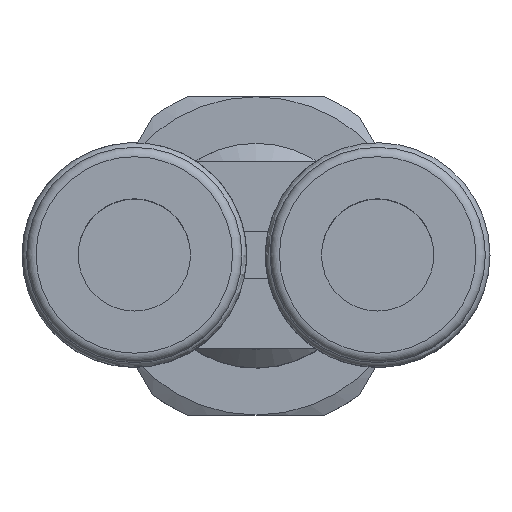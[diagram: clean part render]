
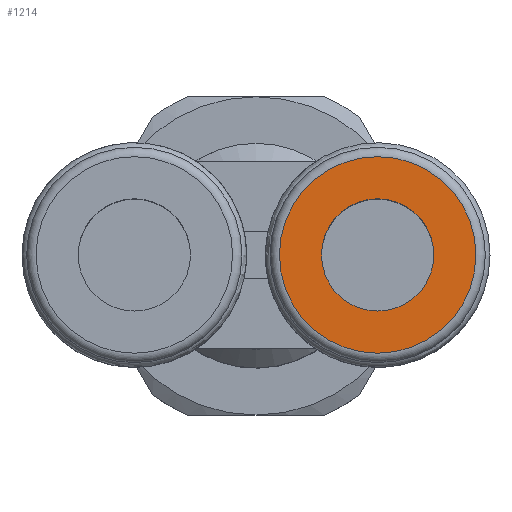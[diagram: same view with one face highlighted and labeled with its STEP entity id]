
A CAD part, top view. The second image highlights one B-rep face of the part: STEP entity #1214.
In plain terms, the highlighted planar face has unit normal (0, 0, 1).
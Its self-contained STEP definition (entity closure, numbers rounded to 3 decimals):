
#180=PLANE($,#1325);
#227=FACE_BOUND($,#357,.T.);
#228=FACE_BOUND($,#358,.T.);
#357=EDGE_LOOP($,(#886));
#358=EDGE_LOOP($,(#887));
#467=CIRCLE($,#1324,3.);
#468=CIRCLE($,#1326,5.25);
#568=VERTEX_POINT($,#2040);
#569=VERTEX_POINT($,#2043);
#691=EDGE_CURVE($,#568,#568,#467,.T.);
#692=EDGE_CURVE($,#569,#569,#468,.T.);
#886=ORIENTED_EDGE($,*,*,#691,.T.);
#887=ORIENTED_EDGE($,*,*,#692,.F.);
#1214=ADVANCED_FACE($,(#227,#228),#180,.F.);
#1324=AXIS2_PLACEMENT_3D($,#2041,#1550,#1551);
#1325=AXIS2_PLACEMENT_3D($,#2042,#1552,#1553);
#1326=AXIS2_PLACEMENT_3D($,#2044,#1554,#1555);
#1550=DIRECTION('center_axis',(0.,0.,-1.));
#1551=DIRECTION('ref_axis',(1.,0.,0.));
#1552=DIRECTION('center_axis',(0.,0.,-1.));
#1553=DIRECTION('ref_axis',(-1.,0.,0.));
#1554=DIRECTION('center_axis',(0.,0.,-1.));
#1555=DIRECTION('ref_axis',(-1.,0.,0.));
#2040=CARTESIAN_POINT('',(9.5,0.,30.1));
#2041=CARTESIAN_POINT('Origin',(6.5,0.,30.1));
#2042=CARTESIAN_POINT('Origin',(6.5,0.,30.1));
#2043=CARTESIAN_POINT('',(11.75,0.,30.1));
#2044=CARTESIAN_POINT('Origin',(6.5,0.,30.1));
